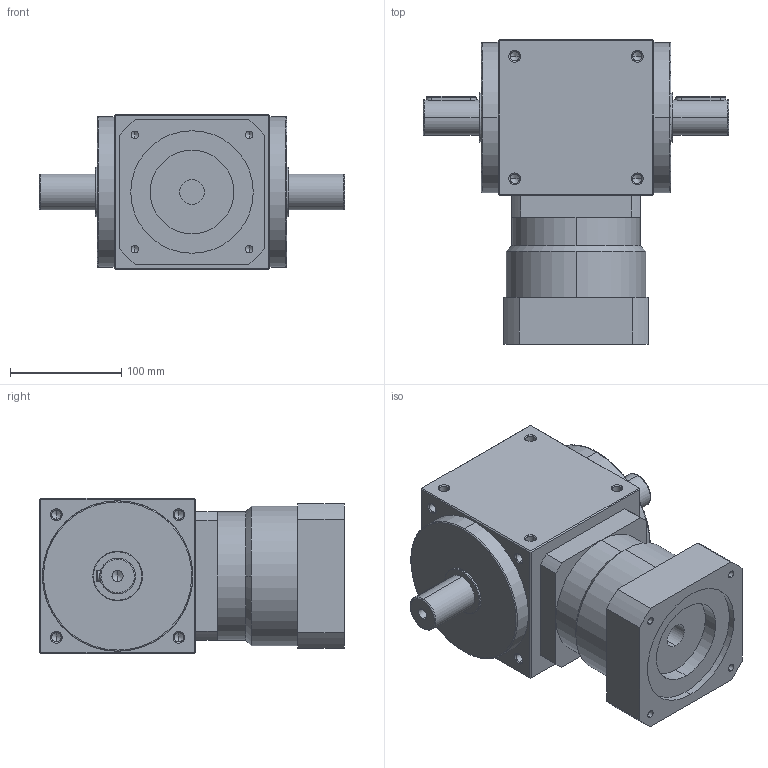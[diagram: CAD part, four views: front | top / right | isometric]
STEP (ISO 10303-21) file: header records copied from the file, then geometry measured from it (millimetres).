
FILE_DESCRIPTION (( 'STEP AP214' ), '1' );
FILE_NAME ('AT140-FL-L1-22-110-145-M8.STEP', '2020-11-17T09:55:14', ( '微软用户' ), ( '微软中国' ), 'SwSTEP 2.0', 'SolidWorks 2014', '' );
FILE_SCHEMA (( 'AUTOMOTIVE_DESIGN' ));
Length unit declared in the file: millimetre
Products named in the file (2): AT140-FL-L1-22-110-145-M8
Bounding box: 274 x 273.5 x 140 mm (x, y, z)
Volume: 4879635.7 mm3; surface area: 228868.2 mm2
Topology: 1 solids, 1 shells, 295 faces, 730 edges, 400 vertices
Faces by surface type: cylinder 126, cone 102, plane 59, bspline 8
Entity records: 11736 total; most frequent: CARTESIAN_POINT 1995, DIRECTION 1362, ORIENTED_EDGE 1356, EDGE_CURVE 678, AXIS2_PLACEMENT_3D 519, VERTEX_POINT 400, EDGE_LOOP 334, LINE 324
